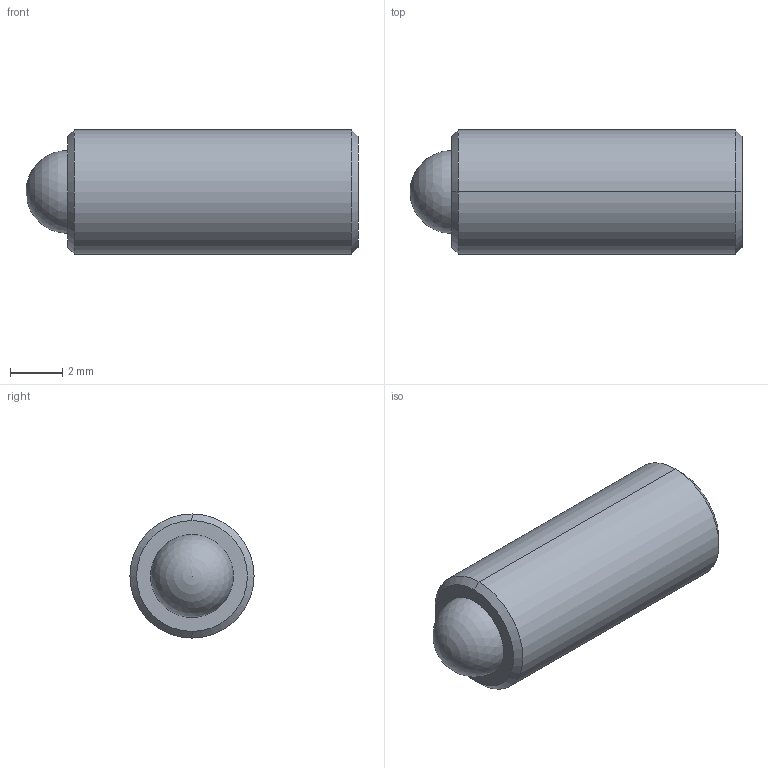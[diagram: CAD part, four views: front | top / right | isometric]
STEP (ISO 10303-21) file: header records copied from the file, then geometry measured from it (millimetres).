
FILE_DESCRIPTION (( 'STEP AP214' ), '1' );
FILE_NAME ('TS187-100-500.STEP', '2013-02-11T15:55:45', ( 'workpc' ), ( 'Microsoft' ), 'SwSTEP 2.0', 'SolidWorks 2013', '' );
FILE_SCHEMA (( 'AUTOMOTIVE_DESIGN' ));
Length unit declared in the file: inch
Products named in the file (1): TS187-100-500
Bounding box: 12.7 x 4.75 x 4.75 mm (x, y, z)
Volume: 192.4 mm3; surface area: 259.9 mm2
Topology: 2 solids, 2 shells, 20 faces, 45 edges, 29 vertices
Faces by surface type: plane 10, cylinder 4, cone 4, sphere 2
Entity records: 599 total; most frequent: DIRECTION 96, CARTESIAN_POINT 87, ORIENTED_EDGE 80, EDGE_CURVE 40, AXIS2_PLACEMENT_3D 35, VECTOR 26, LINE 26, VERTEX_POINT 26
